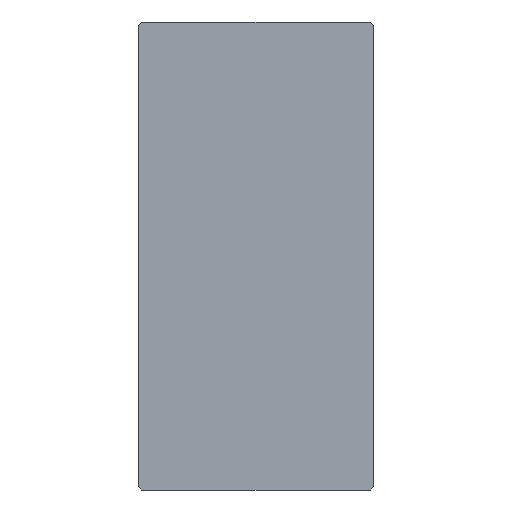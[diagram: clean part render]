
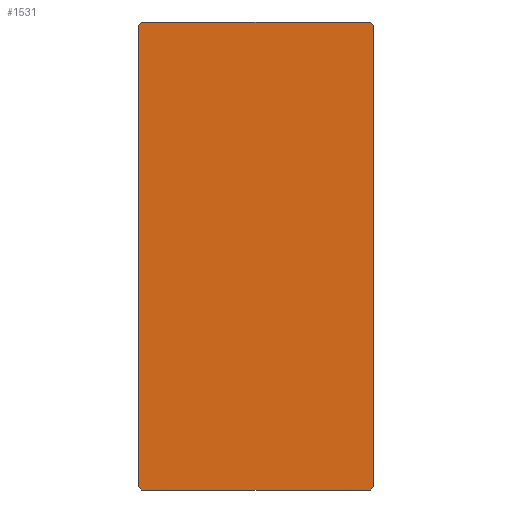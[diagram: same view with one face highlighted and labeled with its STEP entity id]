
A CAD part, front view. The second image highlights one B-rep face of the part: STEP entity #1531.
In plain terms, the highlighted planar face has unit normal (0, -1, 0).
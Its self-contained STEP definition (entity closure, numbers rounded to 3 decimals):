
#561=CARTESIAN_POINT(' ',(-71.5,0.,146.5));
#566=DIRECTION(' ',(1.,0.,0.));
#571=VECTOR(' ',#566,1.);
#576=LINE('',#561,#571);
#581=CARTESIAN_POINT(' ',(-71.5,0.,146.5));
#582=VERTEX_POINT(' ',#581);
#586=CARTESIAN_POINT(' ',(71.5,0.,146.5));
#587=VERTEX_POINT(' ',#586);
#591=EDGE_CURVE(' ',#582,#587,#576,.T.);
#716=CARTESIAN_POINT(' ',(73.5,0.,144.5));
#721=DIRECTION(' ',(-0.707,0.,0.707));
#726=VECTOR(' ',#721,1.);
#731=LINE('',#716,#726);
#736=CARTESIAN_POINT(' ',(73.5,0.,144.5));
#737=VERTEX_POINT(' ',#736);
#741=EDGE_CURVE(' ',#737,#587,#731,.T.);
#831=CARTESIAN_POINT(' ',(73.5,0.,144.5));
#836=DIRECTION(' ',(0.,0.,-1.));
#841=VECTOR(' ',#836,1.);
#846=LINE('',#831,#841);
#851=CARTESIAN_POINT(' ',(73.5,0.,-144.5));
#852=VERTEX_POINT(' ',#851);
#856=EDGE_CURVE(' ',#737,#852,#846,.T.);
#946=CARTESIAN_POINT(' ',(71.5,0.,-146.5));
#951=DIRECTION(' ',(0.707,0.,0.707));
#956=VECTOR(' ',#951,1.);
#961=LINE('',#946,#956);
#966=CARTESIAN_POINT(' ',(71.5,0.,-146.5));
#967=VERTEX_POINT(' ',#966);
#971=EDGE_CURVE(' ',#967,#852,#961,.T.);
#1051=CARTESIAN_POINT(' ',(-71.5,0.,-146.5));
#1056=DIRECTION(' ',(1.,0.,0.));
#1061=VECTOR(' ',#1056,1.);
#1066=LINE('',#1051,#1061);
#1071=CARTESIAN_POINT(' ',(-71.5,0.,-146.5));
#1072=VERTEX_POINT(' ',#1071);
#1076=EDGE_CURVE(' ',#1072,#967,#1066,.T.);
#1166=CARTESIAN_POINT(' ',(-73.5,0.,-144.5));
#1171=DIRECTION(' ',(0.707,0.,-0.707));
#1176=VECTOR(' ',#1171,1.);
#1181=LINE('',#1166,#1176);
#1186=CARTESIAN_POINT(' ',(-73.5,0.,-144.5));
#1187=VERTEX_POINT(' ',#1186);
#1191=EDGE_CURVE(' ',#1187,#1072,#1181,.T.);
#1281=CARTESIAN_POINT(' ',(-73.5,0.,144.5));
#1286=DIRECTION(' ',(0.,0.,-1.));
#1291=VECTOR(' ',#1286,1.);
#1296=LINE('',#1281,#1291);
#1301=CARTESIAN_POINT(' ',(-73.5,0.,144.5));
#1302=VERTEX_POINT(' ',#1301);
#1306=EDGE_CURVE(' ',#1302,#1187,#1296,.T.);
#1396=CARTESIAN_POINT(' ',(-71.5,0.,146.5));
#1401=DIRECTION(' ',(-0.707,0.,-0.707));
#1406=VECTOR(' ',#1401,1.);
#1411=LINE('',#1396,#1406);
#1416=EDGE_CURVE(' ',#582,#1302,#1411,.T.);
#1456=DIRECTION(' ',(-0.,-1.,-0.));
#1461=CARTESIAN_POINT(' ',(-73.5,0.,-146.5));
#1466=DIRECTION(' ',(1.,0.,-0.));
#1471=AXIS2_PLACEMENT_3D(' ',#1461,#1456,#1466);
#1476=PLANE('NONE',#1471);
#1481=ORIENTED_EDGE(' ',*,*,#856,.F.);
#1486=ORIENTED_EDGE(' ',*,*,#741,.T.);
#1491=ORIENTED_EDGE(' ',*,*,#591,.F.);
#1496=ORIENTED_EDGE(' ',*,*,#1416,.T.);
#1501=ORIENTED_EDGE(' ',*,*,#1306,.T.);
#1506=ORIENTED_EDGE(' ',*,*,#1191,.T.);
#1511=ORIENTED_EDGE(' ',*,*,#1076,.T.);
#1516=ORIENTED_EDGE(' ',*,*,#971,.T.);
#1521=EDGE_LOOP(' ',(#1481,#1486,#1491,#1496,#1501,#1506,#1511,#1516));
#1526=FACE_OUTER_BOUND(' ',#1521,.T.);
#1531=ADVANCED_FACE('NONE',(#1526),#1476,.T.);
